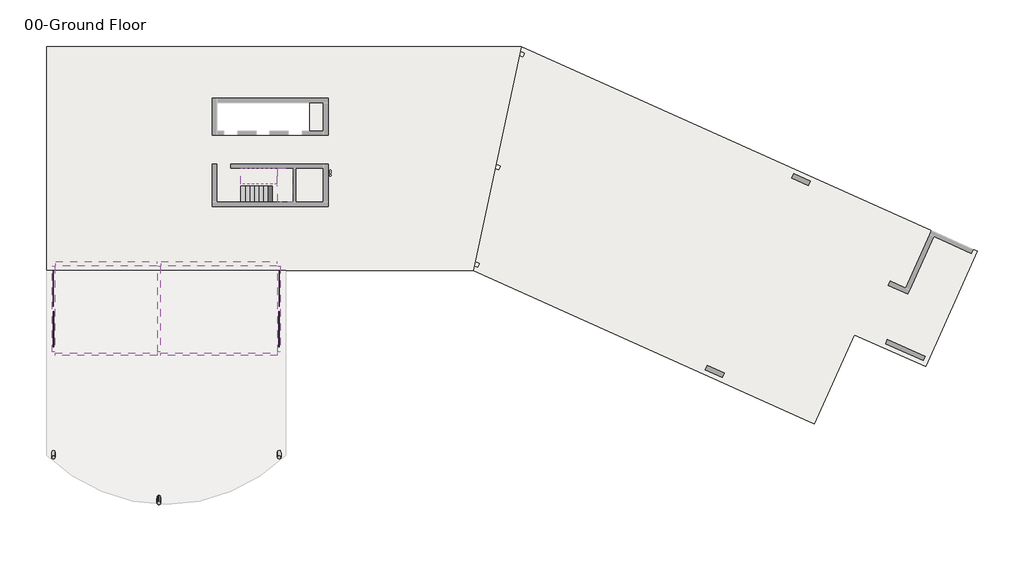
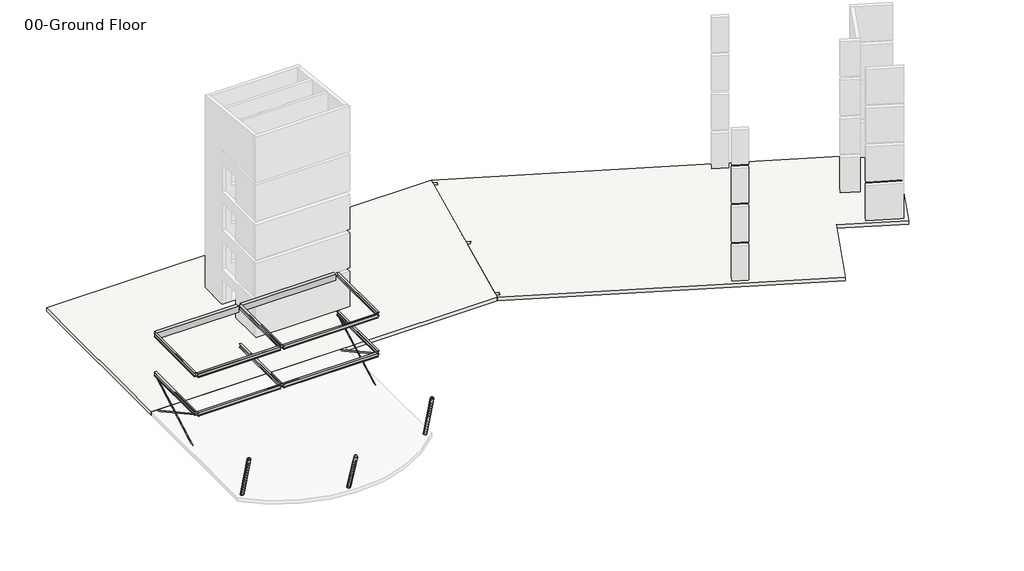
# One storey, part 2 of 2: 12 beams, 4 members, 3 columns, 3 slabs, 2 stair flights.
"""IFC4 building model written with IfcOpenShell, lengths in millimetres."""

from ifc_helpers import new_model, si_unit, frame, origin, place, context, project, spatial, polyline, circle_curve, ellipse_curve, outline, extrude, faceted_brep, transform, mapped, element, save
from ifc_brep_helpers import plane_surface, cylinder_surface, revolved_surface, advanced_brep
from components import w_shapes_w12x26_597c9bcb, w_shapes_w12x26_85c0d87e, w_shapes_w12x26_268029d0, w_shapes_w12x26_8135fd55, flat_bars_fl_3_8x4_f1b121f7, flat_bars_fl_3_8x4_35c656aa, flat_bars_fl_3_8x4_188fb4ee, flat_bars_fl_3_8x4_168c0369

model = new_model("IFC4")

# Units and contexts
model_context = context("Model", 3, world=origin())
ifc_project = project(units=[si_unit("LENGTHUNIT", "METRE", prefix="MILLI")], contexts=[model_context])

# Site, building, storey
site = spatial("IfcSite", under=ifc_project)
building = spatial("IfcBuilding", under=site)
storey = spatial("IfcBuildingStorey", under=building, Name="00-Ground Floor", Elevation=0.0)

# Beams
placement = place(None, origin())
element("IfcBeam", 1, ObjectType="Concrete-Rectangular Beam : 12 x 24", at=placement, inside=storey, context=model_context, shape_type="SweptSolid", body=[
    extrude(outline(polyline([(152.4, -14147.8), (152.4, -13843.0), (6858.0, -13843.0), (6858.0, -14147.8), (152.4, -14147.8)])), frame((0.0, 0.0, 5892.8), z_axis=(0.0, 0.0, 1.0), x_axis=(1.0, 0.0, 0.0)), (0.0, 0.0, 1.0), 508.0),
])
element("IfcBeam", 2, ObjectType="Concrete-Rectangular Beam : 12 x 24", at=placement, inside=storey, context=model_context, shape_type="SweptSolid", body=[
    extrude(outline(polyline([(14846.3, -13843.0), (14846.3, -14147.8), (7162.8, -14147.8), (7162.8, -13843.0), (14846.3, -13843.0)])), frame((0.0, 0.0, 5892.8), z_axis=(0.0, 0.0, 1.0), x_axis=(1.0, 0.0, 0.0)), (0.0, 0.0, 1.0), 508.0),
])
w_shapes_w12x26_shape = w_shapes_w12x26_597c9bcb(model_context)
element("IfcBeam", 3, ObjectType="W Shapes : W12X26", at=placement, inside=storey, context=model_context, shape_type="MappedRepresentation", body=[
    mapped(w_shapes_w12x26_shape, transform((14998.7, -16998.95, 2994.66), x_axis=(0.0, -1.0, 0.0), y_axis=(1.0, 0.0, 0.0), z_axis=(0.0, 0.0, 1.0))),
])
element("IfcBeam", 4, ObjectType="W Shapes : W12X26", at=placement, inside=storey, context=model_context, shape_type="MappedRepresentation", body=[
    mapped(w_shapes_w12x26_shape, transform((14998.7, -16998.95, 6347.46), x_axis=(0.0, -1.0, 0.0), y_axis=(1.0, 0.0, 0.0), z_axis=(0.0, 0.0, 1.0))),
])
w_shapes_w12x26_2_shape = w_shapes_w12x26_85c0d87e(model_context)
element("IfcBeam", 5, ObjectType="W Shapes : W12X26", at=placement, inside=storey, context=model_context, shape_type="MappedRepresentation", body=[
    mapped(w_shapes_w12x26_2_shape, transform((11004.55, -20002.5, 2994.66), x_axis=(-1.0, 0.0, 0.0), y_axis=(0.0, -1.0, 0.0), z_axis=(0.0, 0.0, 1.0))),
])
element("IfcBeam", 6, ObjectType="W Shapes : W12X26", at=placement, inside=storey, context=model_context, shape_type="MappedRepresentation", body=[
    mapped(w_shapes_w12x26_2_shape, transform((11004.55, -20002.5, 6347.46), x_axis=(-1.0, 0.0, 0.0), y_axis=(0.0, -1.0, 0.0), z_axis=(0.0, 0.0, 1.0))),
])
w_shapes_w12x26_3_shape = w_shapes_w12x26_268029d0(model_context)
element("IfcBeam", 7, ObjectType="W Shapes : W12X26", at=placement, inside=storey, context=model_context, shape_type="MappedRepresentation", body=[
    mapped(w_shapes_w12x26_3_shape, transform((7010.4, -16998.95, 2994.66), x_axis=(0.0, 1.0, 0.0), y_axis=(-1.0, 0.0, 0.0), z_axis=(0.0, 0.0, 1.0))),
])
element("IfcBeam", 8, ObjectType="W Shapes : W12X26", at=placement, inside=storey, context=model_context, shape_type="MappedRepresentation", body=[
    mapped(w_shapes_w12x26_3_shape, transform((0.0, -16998.95, 2994.66), x_axis=(0.0, 1.0, 0.0), y_axis=(-1.0, 0.0, 0.0), z_axis=(0.0, 0.0, 1.0))),
])
element("IfcBeam", 9, ObjectType="W Shapes : W12X26", at=placement, inside=storey, context=model_context, shape_type="MappedRepresentation", body=[
    mapped(w_shapes_w12x26_3_shape, transform((7010.4, -16998.95, 6347.46), x_axis=(0.0, 1.0, 0.0), y_axis=(-1.0, 0.0, 0.0), z_axis=(0.0, 0.0, 1.0))),
])
element("IfcBeam", 10, ObjectType="W Shapes : W12X26", at=placement, inside=storey, context=model_context, shape_type="MappedRepresentation", body=[
    mapped(w_shapes_w12x26_3_shape, transform((0.0, -16998.95, 6347.46), x_axis=(0.0, 1.0, 0.0), y_axis=(-1.0, 0.0, 0.0), z_axis=(0.0, 0.0, 1.0))),
])
w_shapes_w12x26_4_shape = w_shapes_w12x26_8135fd55(model_context)
element("IfcBeam", 11, ObjectType="W Shapes : W12X26", at=placement, inside=storey, context=model_context, shape_type="MappedRepresentation", body=[
    mapped(w_shapes_w12x26_4_shape, transform((3505.2, -20002.5, 2994.66), x_axis=(-1.0, 0.0, 0.0), y_axis=(0.0, -1.0, 0.0), z_axis=(0.0, 0.0, 1.0))),
])
element("IfcBeam", 12, ObjectType="W Shapes : W12X26", at=placement, inside=storey, context=model_context, shape_type="MappedRepresentation", body=[
    mapped(w_shapes_w12x26_4_shape, transform((3505.2, -20002.5, 6347.46), x_axis=(-1.0, 0.0, 0.0), y_axis=(0.0, -1.0, 0.0), z_axis=(0.0, 0.0, 1.0))),
])

# Columns
element("IfcColumn", 13, ObjectType="HSS Round-Column : HSS10X.500", at=placement, inside=storey, context=model_context, shape_type="AdvancedBrep", body=[
    advanced_brep(
    [(6883.4, -29416.3085227, -359.2102448), (7137.4, -29416.3085227, -359.2102448), (6896.1, -29416.3085227, -359.2102448), (7124.7, -29416.3085227, -359.2102448), (6883.4, -30549.160265, 3300.5302448), (7137.4, -30549.160265, 3300.5302448), (6896.1, -30549.160265, 3300.5302448), (7124.7, -30549.160265, 3300.5302448)],
    [
        (0, 1, circle_curve(frame((7010.4, -29416.3085227, -359.2102448), z_axis=(0.0, 0.29570157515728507, -0.9552803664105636), x_axis=(1.0, 0.0, 0.0)), 127.0)),
        (1, 0, circle_curve(frame((7010.4, -29416.3085227, -359.2102448), z_axis=(0.0, 0.29570157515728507, -0.9552803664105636), x_axis=(1.0, 0.0, 0.0)), 127.0)),
        (2, 3, circle_curve(frame((7010.4, -29416.3085227, -359.2102448), z_axis=(0.0, -0.29570157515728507, 0.9552803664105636), x_axis=(1.0, 0.0, 0.0)), 114.3)),
        (3, 2, circle_curve(frame((7010.4, -29416.3085227, -359.2102448), z_axis=(0.0, -0.29570157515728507, 0.9552803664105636), x_axis=(1.0, 0.0, 0.0)), 114.3)),
        (4, 5, circle_curve(frame((7010.4, -30549.160265, 3300.5302448), z_axis=(0.0, 0.29570157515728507, -0.9552803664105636), x_axis=(1.0, 0.0, 0.0)), 127.0)),
        (5, 1),
        (0, 4),
        (5, 4, circle_curve(frame((7010.4, -30549.160265, 3300.5302448), z_axis=(0.0, 0.29570157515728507, -0.9552803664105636), x_axis=(1.0, 0.0, 0.0)), 127.0)),
        (6, 7, circle_curve(frame((7010.4, -30549.160265, 3300.5302448), z_axis=(0.0, -0.29570157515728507, 0.9552803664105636), x_axis=(1.0, 0.0, 0.0)), 114.3)),
        (7, 3),
        (2, 6),
        (7, 6, circle_curve(frame((7010.4, -30549.160265, 3300.5302448), z_axis=(0.0, -0.29570157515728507, 0.9552803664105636), x_axis=(1.0, 0.0, 0.0)), 114.3)),
    ],
    [
        plane_surface(frame((7137.4, -29416.3085227, -359.2102448), z_axis=(0.0, 0.295701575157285, -0.9552803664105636), x_axis=(0.0, -0.9552803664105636, -0.295701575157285))),
        cylinder_surface(frame((7010.4, -29416.3085227, -359.2102448), z_axis=(0.0, -0.29570157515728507, 0.9552803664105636), x_axis=(1.0, 0.0, 0.0)), 127.0),
        revolved_surface(polyline([(7124.7, -29416.308522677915, -359.21024479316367), (7124.7, -30549.160264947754, 3300.530244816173)]), (7010.4, -29527.5, 0.0), (0.0, 0.29570157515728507, -0.9552803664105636)),
        plane_surface(frame((7137.4, -30549.160265, 3300.5302448), z_axis=(0.0, -0.295701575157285, 0.9552803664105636), x_axis=(0.0, 0.9552803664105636, 0.295701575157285))),
    ],
    [
        (0, [[1, 2], [3, 4]]),
        (1, [[5, 6, -1, 7]]),
        (1, [[8, -7, -2, -6]]),
        (2, [[9, 10, -3, 11]]),
        (2, [[12, -11, -4, -10]]),
        (3, [[-8, -5], [-12, -9]]),
    ],
),
    advanced_brep(
    [(6883.4, -30549.160265, 3300.5302448), (7137.4, -30549.160265, 3300.5302448), (6896.1, -30549.160265, 3300.5302448), (7124.7, -30549.160265, 3300.5302448), (7137.4, -29527.5, 0.0), (6883.4, -29527.5, 0.0), (7124.7, -29527.5, 0.0), (6896.1, -29527.5, 0.0)],
    [
        (0, 1, circle_curve(frame((7010.4, -30549.160265, 3300.5302448), z_axis=(0.0, -0.29570157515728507, 0.9552803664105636), x_axis=(1.0, 0.0, 0.0)), 127.0)),
        (1, 0, circle_curve(frame((7010.4, -30549.160265, 3300.5302448), z_axis=(0.0, -0.29570157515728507, 0.9552803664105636), x_axis=(1.0, 0.0, 0.0)), 127.0)),
        (2, 3, circle_curve(frame((7010.4, -30549.160265, 3300.5302448), z_axis=(0.0, 0.29570157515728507, -0.9552803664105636), x_axis=(1.0, 0.0, 0.0)), 114.3)),
        (3, 2, circle_curve(frame((7010.4, -30549.160265, 3300.5302448), z_axis=(0.0, 0.29570157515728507, -0.9552803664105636), x_axis=(1.0, 0.0, 0.0)), 114.3)),
        (1, 4),
        (4, 5, ellipse_curve(frame((7010.4, -29527.5, 0.0), z_axis=(0.0, 0.0, 1.0), x_axis=(0.0, -1.0, 0.0)), 132.9452635, 127.0)),
        (5, 0),
        (5, 4, ellipse_curve(frame((7010.4, -29527.5, 0.0), z_axis=(0.0, 0.0, 1.0), x_axis=(0.0, -1.0, 0.0)), 132.9452635, 127.0)),
        (3, 6),
        (6, 7, ellipse_curve(frame((7010.4, -29527.5, 0.0), z_axis=(0.0, 0.0, -1.0), x_axis=(0.0, 1.0, 0.0)), 119.6507371, 114.3)),
        (7, 2),
        (7, 6, ellipse_curve(frame((7010.4, -29527.5, 0.0), z_axis=(0.0, 0.0, -1.0), x_axis=(0.0, 1.0, 0.0)), 119.6507371, 114.3)),
    ],
    [
        plane_surface(frame((7137.4, -30549.160265, 3300.5302448), z_axis=(0.0, -0.295701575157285, 0.9552803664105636), x_axis=(0.0, 0.9552803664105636, 0.295701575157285))),
        cylinder_surface(frame((7010.4, -29416.3085227, -359.2102448), z_axis=(0.0, -0.29570157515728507, 0.9552803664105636), x_axis=(1.0, 0.0, 0.0)), 127.0),
        revolved_surface(polyline([(7124.7, -29517.037808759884, -33.798690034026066), (7124.7, -30549.160264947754, 3300.530244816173)]), (7010.4, -29527.5, 0.0), (0.0, 0.29570157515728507, -0.9552803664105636)),
        plane_surface(frame((7010.4, -29527.5, 0.0), z_axis=(0.0, 0.0, -1.0), x_axis=(1.0, 0.0, 0.0))),
    ],
    [
        (0, [[1, 2], [3, 4]]),
        (1, [[-2, 5, 6, 7]]),
        (1, [[-1, -7, 8, -5]]),
        (2, [[-4, 9, 10, 11]]),
        (2, [[-3, -11, 12, -9]]),
        (3, [[-6, -8], [-10, -12]]),
    ],
),
    advanced_brep(
    [(7137.4, -30437.9687876, 2941.32), (7137.4, -29527.5, 0.0), (6883.4, -29527.5, 0.0), (6883.4, -30437.9687876, 2941.32), (6896.1, -29527.5, 0.0), (7124.7, -29527.5, 0.0), (7124.7, -30437.9687876, 2941.32), (6896.1, -30437.9687876, 2941.32)],
    [
        (0, 1),
        (1, 2, ellipse_curve(frame((7010.4, -29527.5, 0.0), z_axis=(0.0, 0.0, 1.0), x_axis=(0.0, -1.0, 0.0)), 132.9452635, 127.0)),
        (2, 3),
        (3, 0, ellipse_curve(frame((7010.4, -30437.9687876, 2941.32), z_axis=(0.0, 0.0, -1.0), x_axis=(0.0, -1.0, 0.0)), 132.9452635, 127.0)),
        (2, 1, ellipse_curve(frame((7010.4, -29527.5, 0.0), z_axis=(0.0, 0.0, 1.0), x_axis=(0.0, -1.0, 0.0)), 132.9452635, 127.0)),
        (0, 3, ellipse_curve(frame((7010.4, -30437.9687876, 2941.32), z_axis=(0.0, 0.0, -1.0), x_axis=(0.0, -1.0, 0.0)), 132.9452635, 127.0)),
        (4, 5, ellipse_curve(frame((7010.4, -29527.5, 0.0), z_axis=(0.0, 0.0, 1.0), x_axis=(0.0, 1.0, 0.0)), 119.6507371, 114.3)),
        (5, 4, ellipse_curve(frame((7010.4, -29527.5, 0.0), z_axis=(0.0, 0.0, 1.0), x_axis=(0.0, 1.0, 0.0)), 119.6507371, 114.3)),
        (6, 5),
        (4, 7),
        (7, 6, ellipse_curve(frame((7010.4, -30437.9687876, 2941.32), z_axis=(0.0, 0.0, 1.0), x_axis=(0.0, 1.0, 0.0)), 119.6507371, 114.3)),
        (6, 7, ellipse_curve(frame((7010.4, -30437.9687876, 2941.32), z_axis=(0.0, 0.0, 1.0), x_axis=(0.0, 1.0, 0.0)), 119.6507371, 114.3)),
    ],
    [
        cylinder_surface(frame((7010.4, -29416.3085227, -359.2102448), z_axis=(0.0, -0.29570157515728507, 0.9552803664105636), x_axis=(1.0, 0.0, 0.0)), 127.0),
        plane_surface(frame((7010.4, -29527.5, 0.0), z_axis=(0.0, 0.0, -1.0), x_axis=(1.0, 0.0, 0.0))),
        revolved_surface(polyline([(7124.7, -29517.037808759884, -33.798690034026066), (7124.7, -30448.43097885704, 2975.1186900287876)]), (7010.4, -29527.5, 0.0), (0.0, 0.29570157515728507, -0.9552803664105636)),
        plane_surface(frame((7010.4, -30441.9, 2941.32), z_axis=(0.0, 0.0, 1.0), x_axis=(-1.0, 0.0, 0.0))),
    ],
    [
        (0, [[1, 2, 3, 4]]),
        (0, [[-3, 5, -1, 6]]),
        (1, [[-2, -5], [7, 8]]),
        (2, [[9, -7, 10, 11]]),
        (2, [[-10, -8, -9, 12]]),
        (3, [[-4, -6], [-11, -12]]),
    ],
),
])
element("IfcColumn", 14, ObjectType="HSS Round-Column : HSS10X.500", at=placement, inside=storey, context=model_context, shape_type="AdvancedBrep", body=[
    advanced_brep(
    [(-127.0, -26432.3335696, -359.2102448), (127.0, -26432.3335696, -359.2102448), (-114.3, -26432.3335696, -359.2102448), (114.3, -26432.3335696, -359.2102448), (-127.0, -27542.6664304, 3712.0102448), (127.0, -27542.6664304, 3712.0102448), (-114.3, -27542.6664304, 3712.0102448), (114.3, -27542.6664304, 3712.0102448)],
    [
        (0, 1, circle_curve(frame((0.0, -26432.3335696, -359.2102448), z_axis=(0.0, 0.26311740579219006, -0.9647638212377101), x_axis=(1.0000000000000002, 0.0, 0.0)), 127.0)),
        (1, 0, circle_curve(frame((0.0, -26432.3335696, -359.2102448), z_axis=(0.0, 0.26311740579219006, -0.9647638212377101), x_axis=(1.0000000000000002, 0.0, 0.0)), 127.0)),
        (2, 3, circle_curve(frame((0.0, -26432.3335696, -359.2102448), z_axis=(0.0, -0.26311740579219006, 0.9647638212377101), x_axis=(1.0000000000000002, 0.0, 0.0)), 114.3)),
        (3, 2, circle_curve(frame((0.0, -26432.3335696, -359.2102448), z_axis=(0.0, -0.26311740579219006, 0.9647638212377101), x_axis=(1.0000000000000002, 0.0, 0.0)), 114.3)),
        (4, 5, circle_curve(frame((0.0, -27542.6664304, 3712.0102448), z_axis=(0.0, 0.26311740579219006, -0.9647638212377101), x_axis=(1.0000000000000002, 0.0, 0.0)), 127.0)),
        (5, 1),
        (0, 4),
        (5, 4, circle_curve(frame((0.0, -27542.6664304, 3712.0102448), z_axis=(0.0, 0.26311740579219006, -0.9647638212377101), x_axis=(1.0000000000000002, 0.0, 0.0)), 127.0)),
        (6, 7, circle_curve(frame((0.0, -27542.6664304, 3712.0102448), z_axis=(0.0, -0.26311740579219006, 0.9647638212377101), x_axis=(1.0000000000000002, 0.0, 0.0)), 114.3)),
        (7, 3),
        (2, 6),
        (7, 6, circle_curve(frame((0.0, -27542.6664304, 3712.0102448), z_axis=(0.0, -0.26311740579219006, 0.9647638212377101), x_axis=(1.0000000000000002, 0.0, 0.0)), 114.3)),
    ],
    [
        plane_surface(frame((127.0, -26432.3335696, -359.2102448), z_axis=(0.0, 0.26311740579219, -0.96476382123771), x_axis=(0.0, -0.96476382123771, -0.26311740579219))),
        cylinder_surface(frame((0.0, -26432.3335696, -359.2102448), z_axis=(0.0, -0.26311740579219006, 0.9647638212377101), x_axis=(1.0000000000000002, 0.0, 0.0)), 127.0),
        revolved_surface(polyline([(114.30000000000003, -26432.33356959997, -359.21024479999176), (114.30000000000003, -27542.666430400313, 3712.0102447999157)]), (0.0, -26530.3, 0.0), (0.0, 0.26311740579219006, -0.9647638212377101)),
        plane_surface(frame((127.0, -27542.6664304, 3712.0102448), z_axis=(0.0, -0.26311740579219, 0.96476382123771), x_axis=(0.0, 0.96476382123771, 0.26311740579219))),
    ],
    [
        (0, [[1, 2], [3, 4]]),
        (1, [[5, 6, -1, 7]]),
        (1, [[8, -7, -2, -6]]),
        (2, [[9, 10, -3, 11]]),
        (2, [[12, -11, -4, -10]]),
        (3, [[-8, -5], [-12, -9]]),
    ],
),
    advanced_brep(
    [(-127.0, -27542.6664304, 3712.0102448), (127.0, -27542.6664304, 3712.0102448), (-114.3, -27542.6664304, 3712.0102448), (114.3, -27542.6664304, 3712.0102448), (127.0, -26530.3, 0.0), (-127.0, -26530.3, 0.0), (114.3, -26530.3, 0.0), (-114.3, -26530.3, 0.0)],
    [
        (0, 1, circle_curve(frame((0.0, -27542.6664304, 3712.0102448), z_axis=(0.0, -0.26311740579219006, 0.9647638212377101), x_axis=(1.0000000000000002, 0.0, 0.0)), 127.0)),
        (1, 0, circle_curve(frame((0.0, -27542.6664304, 3712.0102448), z_axis=(0.0, -0.26311740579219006, 0.9647638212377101), x_axis=(1.0000000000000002, 0.0, 0.0)), 127.0)),
        (2, 3, circle_curve(frame((0.0, -27542.6664304, 3712.0102448), z_axis=(0.0, 0.26311740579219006, -0.9647638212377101), x_axis=(1.0000000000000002, 0.0, 0.0)), 114.3)),
        (3, 2, circle_curve(frame((0.0, -27542.6664304, 3712.0102448), z_axis=(0.0, 0.26311740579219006, -0.9647638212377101), x_axis=(1.0000000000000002, 0.0, 0.0)), 114.3)),
        (1, 4),
        (4, 5, ellipse_curve(frame((0.0, -26530.3, 0.0), z_axis=(0.0, 0.0, 1.0), x_axis=(0.0, -1.0, 0.0)), 131.6384354, 127.0)),
        (5, 0),
        (5, 4, ellipse_curve(frame((0.0, -26530.3, 0.0), z_axis=(0.0, 0.0, 1.0), x_axis=(0.0, -1.0, 0.0)), 131.6384354, 127.0)),
        (3, 6),
        (6, 7, ellipse_curve(frame((0.0, -26530.3, 0.0), z_axis=(0.0, 0.0, -1.0), x_axis=(0.0, 1.0, 0.0)), 118.4745919, 114.3)),
        (7, 2),
        (7, 6, ellipse_curve(frame((0.0, -26530.3, 0.0), z_axis=(0.0, 0.0, -1.0), x_axis=(0.0, 1.0, 0.0)), 118.4745919, 114.3)),
    ],
    [
        plane_surface(frame((127.0, -27542.6664304, 3712.0102448), z_axis=(0.0, -0.26311740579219, 0.96476382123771), x_axis=(0.0, 0.96476382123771, 0.26311740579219))),
        cylinder_surface(frame((0.0, -26432.3335696, -359.2102448), z_axis=(0.0, -0.26311740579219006, 0.9647638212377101), x_axis=(1.0000000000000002, 0.0, 0.0)), 127.0),
        revolved_surface(polyline([(114.30000000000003, -26522.097912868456, -30.074319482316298), (114.30000000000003, -27542.666430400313, 3712.0102447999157)]), (0.0, -26530.3, 0.0), (0.0, 0.26311740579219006, -0.9647638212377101)),
        plane_surface(frame((0.0, -26530.3, 0.0), z_axis=(0.0, 0.0, -1.0), x_axis=(1.0, 0.0, 0.0))),
    ],
    [
        (0, [[1, 2], [3, 4]]),
        (1, [[-2, 5, 6, 7]]),
        (1, [[-1, -7, 8, -5]]),
        (2, [[-4, 9, 10, 11]]),
        (2, [[-3, -11, 12, -9]]),
        (3, [[-6, -8], [-10, -12]]),
    ],
),
    advanced_brep(
    [(127.0, -27444.7, 3352.8), (127.0, -26530.3, 0.0), (-127.0, -26530.3, 0.0), (-127.0, -27444.7, 3352.8), (-114.3, -26530.3, 0.0), (114.3, -26530.3, 0.0), (114.3, -27444.7, 3352.8), (-114.3, -27444.7, 3352.8)],
    [
        (0, 1),
        (1, 2, ellipse_curve(frame((0.0, -26530.3, 0.0), z_axis=(0.0, 0.0, 1.0), x_axis=(0.0, -1.0, 0.0)), 131.6384354, 127.0)),
        (2, 3),
        (3, 0, ellipse_curve(frame((0.0, -27444.7, 3352.8), z_axis=(0.0, 0.0, -1.0), x_axis=(0.0, -1.0, 0.0)), 131.6384354, 127.0)),
        (2, 1, ellipse_curve(frame((0.0, -26530.3, 0.0), z_axis=(0.0, 0.0, 1.0), x_axis=(0.0, -1.0, 0.0)), 131.6384354, 127.0)),
        (0, 3, ellipse_curve(frame((0.0, -27444.7, 3352.8), z_axis=(0.0, 0.0, -1.0), x_axis=(0.0, -1.0, 0.0)), 131.6384354, 127.0)),
        (4, 5, ellipse_curve(frame((0.0, -26530.3, 0.0), z_axis=(0.0, 0.0, 1.0), x_axis=(0.0, 1.0, 0.0)), 118.4745919, 114.3)),
        (5, 4, ellipse_curve(frame((0.0, -26530.3, 0.0), z_axis=(0.0, 0.0, 1.0), x_axis=(0.0, 1.0, 0.0)), 118.4745919, 114.3)),
        (6, 5),
        (4, 7),
        (7, 6, ellipse_curve(frame((0.0, -27444.7, 3352.8), z_axis=(0.0, 0.0, 1.0), x_axis=(0.0, 1.0, 0.0)), 118.4745919, 114.3)),
        (6, 7, ellipse_curve(frame((0.0, -27444.7, 3352.8), z_axis=(0.0, 0.0, 1.0), x_axis=(0.0, 1.0, 0.0)), 118.4745919, 114.3)),
    ],
    [
        cylinder_surface(frame((0.0, -26432.3335696, -359.2102448), z_axis=(0.0, -0.26311740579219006, 0.9647638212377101), x_axis=(1.0000000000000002, 0.0, 0.0)), 127.0),
        plane_surface(frame((0.0, -26530.3, 0.0), z_axis=(0.0, 0.0, -1.0), x_axis=(1.0, 0.0, 0.0))),
        revolved_surface(polyline([(114.30000000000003, -26522.097912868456, -30.074319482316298), (114.30000000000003, -27452.902087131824, 3382.8743194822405)]), (0.0, -26530.3, 0.0), (0.0, 0.26311740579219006, -0.9647638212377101)),
        plane_surface(frame((0.0, -27444.7, 3352.8), z_axis=(0.0, 0.0, 1.0), x_axis=(-1.0, 0.0, 0.0))),
    ],
    [
        (0, [[1, 2, 3, 4]]),
        (0, [[-3, 5, -1, 6]]),
        (1, [[-2, -5], [7, 8]]),
        (2, [[9, -7, 10, 11]]),
        (2, [[-10, -8, -9, 12]]),
        (3, [[-4, -6], [-11, -12]]),
    ],
),
])
element("IfcColumn", 15, ObjectType="HSS Round-Column : HSS10X.500", at=placement, inside=storey, context=model_context, shape_type="AdvancedBrep", body=[
    advanced_brep(
    [(14871.7, -26432.3335696, -359.2102448), (15125.7, -26432.3335696, -359.2102448), (14884.4, -26432.3335696, -359.2102448), (15113.0, -26432.3335696, -359.2102448), (14871.7, -27542.6664304, 3712.0102448), (15125.7, -27542.6664304, 3712.0102448), (14884.4, -27542.6664304, 3712.0102448), (15113.0, -27542.6664304, 3712.0102448)],
    [
        (0, 1, circle_curve(frame((14998.7, -26432.3335696, -359.2102448), z_axis=(0.0, 0.26311740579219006, -0.9647638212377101), x_axis=(1.0000000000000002, 0.0, 0.0)), 127.0)),
        (1, 0, circle_curve(frame((14998.7, -26432.3335696, -359.2102448), z_axis=(0.0, 0.26311740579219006, -0.9647638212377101), x_axis=(1.0000000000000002, 0.0, 0.0)), 127.0)),
        (2, 3, circle_curve(frame((14998.7, -26432.3335696, -359.2102448), z_axis=(0.0, -0.26311740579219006, 0.9647638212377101), x_axis=(1.0000000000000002, 0.0, 0.0)), 114.3)),
        (3, 2, circle_curve(frame((14998.7, -26432.3335696, -359.2102448), z_axis=(0.0, -0.26311740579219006, 0.9647638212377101), x_axis=(1.0000000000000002, 0.0, 0.0)), 114.3)),
        (4, 5, circle_curve(frame((14998.7, -27542.6664304, 3712.0102448), z_axis=(0.0, 0.26311740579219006, -0.9647638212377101), x_axis=(1.0000000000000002, 0.0, 0.0)), 127.0)),
        (5, 1),
        (0, 4),
        (5, 4, circle_curve(frame((14998.7, -27542.6664304, 3712.0102448), z_axis=(0.0, 0.26311740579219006, -0.9647638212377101), x_axis=(1.0000000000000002, 0.0, 0.0)), 127.0)),
        (6, 7, circle_curve(frame((14998.7, -27542.6664304, 3712.0102448), z_axis=(0.0, -0.26311740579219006, 0.9647638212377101), x_axis=(1.0000000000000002, 0.0, 0.0)), 114.3)),
        (7, 3),
        (2, 6),
        (7, 6, circle_curve(frame((14998.7, -27542.6664304, 3712.0102448), z_axis=(0.0, -0.26311740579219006, 0.9647638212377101), x_axis=(1.0000000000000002, 0.0, 0.0)), 114.3)),
    ],
    [
        plane_surface(frame((15125.7, -26432.3335696, -359.2102448), z_axis=(0.0, 0.26311740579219, -0.96476382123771), x_axis=(0.0, -0.96476382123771, -0.26311740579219))),
        cylinder_surface(frame((14998.7, -26432.3335696, -359.2102448), z_axis=(0.0, -0.26311740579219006, 0.9647638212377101), x_axis=(1.0000000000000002, 0.0, 0.0)), 127.0),
        revolved_surface(polyline([(15113.0, -26432.33356959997, -359.21024479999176), (15113.0, -27542.666430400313, 3712.0102447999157)]), (14998.7, -26530.3, 0.0), (0.0, 0.26311740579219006, -0.9647638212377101)),
        plane_surface(frame((15125.7, -27542.6664304, 3712.0102448), z_axis=(0.0, -0.26311740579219, 0.96476382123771), x_axis=(0.0, 0.96476382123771, 0.26311740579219))),
    ],
    [
        (0, [[1, 2], [3, 4]]),
        (1, [[5, 6, -1, 7]]),
        (1, [[8, -7, -2, -6]]),
        (2, [[9, 10, -3, 11]]),
        (2, [[12, -11, -4, -10]]),
        (3, [[-8, -5], [-12, -9]]),
    ],
),
    advanced_brep(
    [(14871.7, -27542.6664304, 3712.0102448), (15125.7, -27542.6664304, 3712.0102448), (14884.4, -27542.6664304, 3712.0102448), (15113.0, -27542.6664304, 3712.0102448), (15125.7, -26530.3, 0.0), (14871.7, -26530.3, 0.0), (15113.0, -26530.3, 0.0), (14884.4, -26530.3, 0.0)],
    [
        (0, 1, circle_curve(frame((14998.7, -27542.6664304, 3712.0102448), z_axis=(0.0, -0.26311740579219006, 0.9647638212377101), x_axis=(1.0000000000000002, 0.0, 0.0)), 127.0)),
        (1, 0, circle_curve(frame((14998.7, -27542.6664304, 3712.0102448), z_axis=(0.0, -0.26311740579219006, 0.9647638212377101), x_axis=(1.0000000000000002, 0.0, 0.0)), 127.0)),
        (2, 3, circle_curve(frame((14998.7, -27542.6664304, 3712.0102448), z_axis=(0.0, 0.26311740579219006, -0.9647638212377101), x_axis=(1.0000000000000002, 0.0, 0.0)), 114.3)),
        (3, 2, circle_curve(frame((14998.7, -27542.6664304, 3712.0102448), z_axis=(0.0, 0.26311740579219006, -0.9647638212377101), x_axis=(1.0000000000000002, 0.0, 0.0)), 114.3)),
        (1, 4),
        (4, 5, ellipse_curve(frame((14998.7, -26530.3, 0.0), z_axis=(0.0, 0.0, 1.0), x_axis=(0.0, -1.0, 0.0)), 131.6384354, 127.0)),
        (5, 0),
        (5, 4, ellipse_curve(frame((14998.7, -26530.3, 0.0), z_axis=(0.0, 0.0, 1.0), x_axis=(0.0, -1.0, 0.0)), 131.6384354, 127.0)),
        (3, 6),
        (6, 7, ellipse_curve(frame((14998.7, -26530.3, 0.0), z_axis=(0.0, 0.0, -1.0), x_axis=(0.0, 1.0, 0.0)), 118.4745919, 114.3)),
        (7, 2),
        (7, 6, ellipse_curve(frame((14998.7, -26530.3, 0.0), z_axis=(0.0, 0.0, -1.0), x_axis=(0.0, 1.0, 0.0)), 118.4745919, 114.3)),
    ],
    [
        plane_surface(frame((15125.7, -27542.6664304, 3712.0102448), z_axis=(0.0, -0.26311740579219, 0.96476382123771), x_axis=(0.0, 0.96476382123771, 0.26311740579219))),
        cylinder_surface(frame((14998.7, -26432.3335696, -359.2102448), z_axis=(0.0, -0.26311740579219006, 0.9647638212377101), x_axis=(1.0000000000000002, 0.0, 0.0)), 127.0),
        revolved_surface(polyline([(15113.0, -26522.097912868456, -30.074319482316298), (15113.0, -27542.666430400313, 3712.0102447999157)]), (14998.7, -26530.3, 0.0), (0.0, 0.26311740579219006, -0.9647638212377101)),
        plane_surface(frame((14998.7, -26530.3, 0.0), z_axis=(0.0, 0.0, -1.0), x_axis=(1.0, 0.0, 0.0))),
    ],
    [
        (0, [[1, 2], [3, 4]]),
        (1, [[-2, 5, 6, 7]]),
        (1, [[-1, -7, 8, -5]]),
        (2, [[-4, 9, 10, 11]]),
        (2, [[-3, -11, 12, -9]]),
        (3, [[-6, -8], [-10, -12]]),
    ],
),
    advanced_brep(
    [(15125.7, -27444.7, 3352.8), (15125.7, -26530.3, 0.0), (14871.7, -26530.3, 0.0), (14871.7, -27444.7, 3352.8), (14884.4, -26530.3, 0.0), (15113.0, -26530.3, 0.0), (15113.0, -27444.7, 3352.8), (14884.4, -27444.7, 3352.8)],
    [
        (0, 1),
        (1, 2, ellipse_curve(frame((14998.7, -26530.3, 0.0), z_axis=(0.0, 0.0, 1.0), x_axis=(0.0, -1.0, 0.0)), 131.6384354, 127.0)),
        (2, 3),
        (3, 0, ellipse_curve(frame((14998.7, -27444.7, 3352.8), z_axis=(0.0, 0.0, -1.0), x_axis=(0.0, -1.0, 0.0)), 131.6384354, 127.0)),
        (2, 1, ellipse_curve(frame((14998.7, -26530.3, 0.0), z_axis=(0.0, 0.0, 1.0), x_axis=(0.0, -1.0, 0.0)), 131.6384354, 127.0)),
        (0, 3, ellipse_curve(frame((14998.7, -27444.7, 3352.8), z_axis=(0.0, 0.0, -1.0), x_axis=(0.0, -1.0, 0.0)), 131.6384354, 127.0)),
        (4, 5, ellipse_curve(frame((14998.7, -26530.3, 0.0), z_axis=(0.0, 0.0, 1.0), x_axis=(0.0, 1.0, 0.0)), 118.4745919, 114.3)),
        (5, 4, ellipse_curve(frame((14998.7, -26530.3, 0.0), z_axis=(0.0, 0.0, 1.0), x_axis=(0.0, 1.0, 0.0)), 118.4745919, 114.3)),
        (6, 5),
        (4, 7),
        (7, 6, ellipse_curve(frame((14998.7, -27444.7, 3352.8), z_axis=(0.0, 0.0, 1.0), x_axis=(0.0, 1.0, 0.0)), 118.4745919, 114.3)),
        (6, 7, ellipse_curve(frame((14998.7, -27444.7, 3352.8), z_axis=(0.0, 0.0, 1.0), x_axis=(0.0, 1.0, 0.0)), 118.4745919, 114.3)),
    ],
    [
        cylinder_surface(frame((14998.7, -26432.3335696, -359.2102448), z_axis=(0.0, -0.26311740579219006, 0.9647638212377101), x_axis=(1.0000000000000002, 0.0, 0.0)), 127.0),
        plane_surface(frame((14998.7, -26530.3, 0.0), z_axis=(0.0, 0.0, -1.0), x_axis=(1.0, 0.0, 0.0))),
        revolved_surface(polyline([(15113.0, -26522.097912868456, -30.074319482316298), (15113.0, -27452.902087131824, 3382.8743194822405)]), (14998.7, -26530.3, 0.0), (0.0, 0.26311740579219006, -0.9647638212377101)),
        plane_surface(frame((14998.7, -27444.7, 3352.8), z_axis=(0.0, 0.0, 1.0), x_axis=(-1.0, 0.0, 0.0))),
    ],
    [
        (0, [[1, 2, 3, 4]]),
        (0, [[-3, 5, -1, 6]]),
        (1, [[-2, -5], [7, 8]]),
        (2, [[9, -7, 10, 11]]),
        (2, [[-10, -8, -9, 12]]),
        (3, [[-4, -6], [-11, -12]]),
    ],
),
])

# Members
flat_bars_fl_3_8x4_shape = flat_bars_fl_3_8x4_f1b121f7(model_context)
element("IfcMember", 16, ObjectType="Flat Bars : FL 3/8X4", at=placement, inside=storey, context=model_context, shape_type="MappedRepresentation", body=[
    mapped(flat_bars_fl_3_8x4_shape, transform((14998.7, -16998.95, 1344.93), x_axis=(0.0, -0.8764896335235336, 0.48142073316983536), y_axis=(1.0, 0.0, 0.0), z_axis=(0.0, 0.48142073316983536, 0.8764896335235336))),
])
flat_bars_fl_3_8x4_2_shape = flat_bars_fl_3_8x4_35c656aa(model_context)
element("IfcMember", 17, ObjectType="Flat Bars : FL 3/8X4", at=placement, inside=storey, context=model_context, shape_type="MappedRepresentation", body=[
    mapped(flat_bars_fl_3_8x4_2_shape, transform((14989.175, -16998.95, 1344.93), x_axis=(0.0, 0.8764896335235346, 0.4814207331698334), y_axis=(-1.0, 0.0, 0.0), z_axis=(0.0, -0.4814207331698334, 0.8764896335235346))),
])
flat_bars_fl_3_8x4_3_shape = flat_bars_fl_3_8x4_188fb4ee(model_context)
element("IfcMember", 18, ObjectType="Flat Bars : FL 3/8X4", at=placement, inside=storey, context=model_context, shape_type="MappedRepresentation", body=[
    mapped(flat_bars_fl_3_8x4_3_shape, transform((9.525, -16998.95, 1344.93), x_axis=(0.0, 0.8764896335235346, 0.4814207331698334), y_axis=(-1.0, 0.0, 0.0), z_axis=(0.0, -0.4814207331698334, 0.8764896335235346))),
])
flat_bars_fl_3_8x4_4_shape = flat_bars_fl_3_8x4_168c0369(model_context)
element("IfcMember", 19, ObjectType="Flat Bars : FL 3/8X4", at=placement, inside=storey, context=model_context, shape_type="MappedRepresentation", body=[
    mapped(flat_bars_fl_3_8x4_4_shape, transform((0.0, -16998.95, 1344.93), x_axis=(0.0, -0.8764896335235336, 0.48142073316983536), y_axis=(1.0, 0.0, 0.0), z_axis=(0.0, 0.48142073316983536, 0.8764896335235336))),
])

# Slabs
element("IfcSlab", 20, ObjectType="7\" Thickness", at=placement, inside=storey, context=model_context, shape_type="Brep", body=[
    faceted_brep([(14884.4, -8826.5, 1775.0117647), (14903.45, -8826.5, 1775.0117647), (14903.45, -9893.3, 1775.0117647), (15167.2458186, -9893.3, 1775.0117647), (15951.2, -9893.3, 1775.0117647), (15951.2, -7633.3081651, 1775.0117647), (14906.3541814, -7633.3081651, 1775.0117647), (14884.4, -7633.3081651, 1775.0117647), (14865.35, -7633.3081651, 1775.0117647), (14865.35, -8700.1081651, 1775.0117647), (14884.4, -8700.1081651, 1775.0117647), (14884.4, -8826.5, 1597.2117647), (14903.45, -8826.5, 1597.2117647), (14903.45, -8826.5, 1577.7882353), (14903.45, -8826.5, 1426.5203527), (14903.45, -9893.3, 1426.5203527), (14903.45, -9893.3, 1577.7882353), (15167.2458186, -9893.3, 1597.2117647), (15951.2, -9893.3, 1597.2117647), (15951.2, -7633.3081651, 1597.2117647), (14906.3541814, -7633.3081651, 1597.2117647), (14884.4, -7633.3081651, 1611.4174115), (14865.35, -7633.3081651, 1623.7438821), (14865.35, -8700.1081651, 1623.7438821), (14884.4, -8700.1081651, 1611.4174115), (14884.4, -8700.1081651, 1597.2117647), (14906.3541814, -8700.1081651, 1597.2117647), (15167.2458186, -8826.5, 1597.2117647)], [[[0, 1, 2, 3, 4, 5, 6, 7, 8, 9, 10]], [[1, 0, 11, 12]], [[2, 1, 12, 13, 14, 15, 16]], [[2, 16, 15, 17, 18, 4, 3]], [[5, 4, 18, 19]], [[5, 19, 20, 21, 7, 6]], [[8, 7, 21, 22]], [[9, 8, 22, 23]], [[10, 9, 23, 24]], [[0, 10, 24, 25, 11]], [[25, 26, 20, 19, 18, 17, 27, 12, 11]], [[26, 25, 24]], [[27, 17, 15, 14]], [[12, 27, 14, 13]], [[20, 26, 24, 23, 22, 21]]]),
])
element("IfcSlab", 21, ObjectType="RC Slab 12\"", at=placement, inside=storey, context=model_context, shape_type="AdvancedBrep", body=[
    advanced_brep(
    [(-457.2, 457.2, -304.8), (31098.7387393, 457.2, -304.8), (27903.7815965, -14452.6, -304.8), (15455.9, -14452.6, -304.8), (-457.2, -14452.6, -304.8), (17005.3, -2984.5, -304.8), (10553.7, -2984.5, -304.8), (10553.7, -5422.9, -304.8), (17005.3, -5422.9, -304.8), (17005.3, -5168.9, -304.8), (17005.3, -3289.3, -304.8), (18347.8020543, -8109.4381113, -304.8), (18449.4020543, -8109.4381113, -304.8), (18347.8020543, -7957.0381113, -304.8), (18449.4020543, -7957.0381113, -304.8), (18347.8020543, -7804.6381113, -304.8), (18449.4020543, -7804.6381113, -304.8), (31098.7387393, 457.2, 0.0), (-457.2, 457.2, 0.0), (-457.2, -14452.6, 0.0), (15455.9, -14452.6, 0.0), (27903.7815965, -14452.6, 0.0), (10553.7, -2984.5, 0.0), (10858.5, -2984.5, 0.0), (17005.3, -2984.5, 0.0), (17005.3, -3289.3, 0.0), (17005.3, -5168.9, 0.0), (17005.3, -5422.9, 0.0), (10553.7, -5422.9, 0.0), (10553.7, -5168.9, 0.0), (18449.4020543, -8109.4381113, 0.0), (18347.8020543, -8109.4381113, 0.0), (18449.4020543, -7957.0381113, 0.0), (18347.8020543, -7957.0381113, 0.0), (18449.4020543, -7804.6381113, 0.0), (18347.8020543, -7804.6381113, 0.0)],
    [
        (0, 1),
        (1, 2),
        (2, 3),
        (3, 4),
        (4, 0),
        (5, 6),
        (6, 7),
        (7, 8),
        (8, 9),
        (9, 10),
        (10, 5),
        (11, 12, circle_curve(frame((18398.6020543, -8109.4381113, -304.8), z_axis=(0.0, 0.0, 1.0), x_axis=(1.0, 0.0, 0.0)), 50.8)),
        (12, 11, circle_curve(frame((18398.6020543, -8109.4381113, -304.8), z_axis=(0.0, 0.0, 1.0), x_axis=(1.0, 0.0, 0.0)), 50.8)),
        (13, 14, circle_curve(frame((18398.6020543, -7957.0381113, -304.8), z_axis=(0.0, 0.0, 1.0), x_axis=(1.0, 0.0, 0.0)), 50.8)),
        (14, 13, circle_curve(frame((18398.6020543, -7957.0381113, -304.8), z_axis=(0.0, 0.0, 1.0), x_axis=(1.0, 0.0, 0.0)), 50.8)),
        (15, 16, circle_curve(frame((18398.6020543, -7804.6381113, -304.8), z_axis=(0.0, 0.0, 1.0), x_axis=(1.0, 0.0, 0.0)), 50.8)),
        (16, 15, circle_curve(frame((18398.6020543, -7804.6381113, -304.8), z_axis=(0.0, 0.0, 1.0), x_axis=(1.0, 0.0, 0.0)), 50.8)),
        (17, 18),
        (18, 19),
        (19, 20),
        (20, 21),
        (21, 17),
        (22, 23),
        (23, 24),
        (24, 25),
        (25, 26),
        (26, 27),
        (27, 28),
        (28, 29),
        (29, 22),
        (30, 31, circle_curve(frame((18398.6020543, -8109.4381113, 0.0), z_axis=(0.0, 0.0, -1.0), x_axis=(1.0, 0.0, 0.0)), 50.8)),
        (31, 30, circle_curve(frame((18398.6020543, -8109.4381113, 0.0), z_axis=(0.0, 0.0, -1.0), x_axis=(1.0, 0.0, 0.0)), 50.8)),
        (32, 33, circle_curve(frame((18398.6020543, -7957.0381113, 0.0), z_axis=(0.0, 0.0, -1.0), x_axis=(1.0, 0.0, 0.0)), 50.8)),
        (33, 32, circle_curve(frame((18398.6020543, -7957.0381113, 0.0), z_axis=(0.0, 0.0, -1.0), x_axis=(1.0, 0.0, 0.0)), 50.8)),
        (34, 35, circle_curve(frame((18398.6020543, -7804.6381113, 0.0), z_axis=(0.0, 0.0, -1.0), x_axis=(1.0, 0.0, 0.0)), 50.8)),
        (35, 34, circle_curve(frame((18398.6020543, -7804.6381113, 0.0), z_axis=(0.0, 0.0, -1.0), x_axis=(1.0, 0.0, 0.0)), 50.8)),
        (0, 18),
        (17, 1),
        (21, 2),
        (19, 4),
        (5, 24),
        (22, 6),
        (28, 7),
        (27, 8),
        (11, 31),
        (30, 12),
        (13, 33),
        (32, 14),
        (15, 35),
        (34, 16),
    ],
    [
        plane_surface(frame((0.0, 457.2, -304.8), z_axis=(0.0, 0.0, -1.0), x_axis=(1.0, 0.0, 0.0))),
        plane_surface(frame((0.0, 457.2, 0.0), z_axis=(0.0, 0.0, 1.0), x_axis=(-1.0, 0.0, 0.0))),
        plane_surface(frame((-457.2, 457.2, -304.8), z_axis=(0.0, 1.0, 0.0), x_axis=(0.0, 0.0, 1.0))),
        plane_surface(frame((31098.7387393, 457.2, -304.8), z_axis=(0.9778024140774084, -0.2095290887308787, 0.0), x_axis=(0.0, 0.0, 1.0))),
        plane_surface(frame((27903.7815965, -14452.6, -304.8), z_axis=(0.0, -1.0, 0.0), x_axis=(0.0, 0.0, 1.0))),
        plane_surface(frame((-457.2, -14452.6, -304.8), z_axis=(-1.0, 0.0, 0.0), x_axis=(0.0, 0.0, 1.0))),
        plane_surface(frame((17005.3, -2984.5, 13411.2), z_axis=(0.0, -1.0, 0.0), x_axis=(0.0, 0.0, -1.0))),
        plane_surface(frame((10553.7, -2984.5, 13411.2), z_axis=(1.0, 0.0, 0.0), x_axis=(0.0, 0.0, -1.0))),
        plane_surface(frame((10553.7, -5422.9, 13411.2), z_axis=(0.0, 1.0, 0.0), x_axis=(0.0, 0.0, -1.0))),
        plane_surface(frame((17005.3, -5422.9, 13411.2), z_axis=(-1.0, 0.0, 0.0), x_axis=(0.0, 0.0, -1.0))),
        revolved_surface(polyline([(18449.4020543, -8109.4381113, 0.0), (18449.4020543, -8109.4381113, -304.8)]), (18398.6020543, -8109.4381113, -609.6), (0.0, 0.0, 1.0)),
        revolved_surface(polyline([(18449.4020543, -7957.0381113, 0.0), (18449.4020543, -7957.0381113, -304.8)]), (18398.6020543, -7957.0381113, -609.6), (0.0, 0.0, 1.0)),
        revolved_surface(polyline([(18449.4020543, -7804.6381113, 0.0), (18449.4020543, -7804.6381113, -304.8)]), (18398.6020543, -7804.6381113, -609.6), (0.0, 0.0, 1.0)),
    ],
    [
        (0, [[1, 2, 3, 4, 5], [6, 7, 8, 9, 10, 11], [12, 13], [14, 15], [16, 17]]),
        (1, [[18, 19, 20, 21, 22], [23, 24, 25, 26, 27, 28, 29, 30], [31, 32], [33, 34], [35, 36]]),
        (2, [[-1, 37, -18, 38]]),
        (3, [[-2, -38, -22, 39]]),
        (4, [[-4, -3, -39, -21, -20, 40]]),
        (5, [[-5, -40, -19, -37]]),
        (6, [[41, -24, -23, 42, -6]]),
        (7, [[-42, -30, -29, 43, -7]]),
        (8, [[-43, -28, 44, -8]]),
        (9, [[-41, -11, -10, -9, -44, -27, -26, -25]]),
        (10, [[45, -31, 46, -12]]),
        (10, [[-45, -13, -46, -32]]),
        (11, [[47, -33, 48, -14]]),
        (11, [[-47, -15, -48, -34]]),
        (12, [[49, -35, 50, -16]]),
        (12, [[-49, -17, -50, -36]]),
    ],
),
])
element("IfcSlab", 22, ObjectType="RC Slab 12\"", at=placement, inside=storey, context=model_context, shape_type="Brep", body=[
    faceted_brep([(61413.0546278, -13159.9258537, -304.8), (57962.8673107, -20840.7, -304.8), (53236.2370668, -18717.5078049, -304.8), (50577.0429205, -24637.3804878, -304.8), (27903.7815965, -14452.6, -304.8), (27969.0988162, -14147.786308, -304.8), (28217.3432689, -14259.3121951, -304.8), (28342.2369275, -13981.275122, -304.8), (28034.4045592, -13843.0124873, -304.8), (29359.7488162, -7658.086308, -304.8), (29607.9932689, -7769.6121951, -304.8), (29732.8869275, -7491.575122, -304.8), (29425.0545592, -7353.3124873, -304.8), (30968.1131019, -152.386308, -304.8), (31216.3575546, -263.9121951, -304.8), (31341.2512132, 14.124878, -304.8), (31033.4188449, 152.3875127, -304.8), (31098.7387393, 457.2, -304.8), (57962.8673107, -20840.7, 0.0), (61413.0546278, -13159.9258537, 0.0), (61135.0175546, -13035.0321951, 0.0), (58354.6468229, -11786.0956098, 0.0), (31098.7387393, 457.2, 0.0), (31033.4244536, 152.4, 0.0), (31341.2512132, 14.124878, 0.0), (31216.3575546, -263.9121951, 0.0), (30968.1131019, -152.386308, 0.0), (29425.0601679, -7353.3, 0.0), (29732.8869275, -7491.575122, 0.0), (29607.9932689, -7769.6121951, 0.0), (29359.7488162, -7658.086308, 0.0), (28034.4101679, -13843.0, 0.0), (28342.2369275, -13981.275122, 0.0), (28217.3432689, -14259.3121951, 0.0), (27969.0988162, -14147.786308, 0.0), (27903.7815965, -14452.6, 0.0), (50577.0429205, -24637.3804878, 0.0), (53236.2370668, -18717.5078049, 0.0)], [[[0, 1, 2, 3, 4, 5, 6, 7, 8, 9, 10, 11, 12, 13, 14, 15, 16, 17]], [[18, 19, 20, 21, 22, 23, 24, 25, 26, 27, 28, 29, 30, 31, 32, 33, 34, 35, 36, 37]], [[1, 0, 19, 18]], [[2, 1, 18, 37]], [[3, 2, 37, 36]], [[4, 3, 36, 35]], [[4, 35, 34, 5]], [[22, 17, 16, 23]], [[8, 31, 30, 9]], [[26, 13, 12, 27]], [[0, 17, 22, 21, 20, 19]], [[7, 32, 31, 8]], [[32, 7, 6, 33]], [[33, 6, 5, 34]], [[15, 24, 23, 16]], [[24, 15, 14, 25]], [[25, 14, 13, 26]], [[11, 28, 27, 12]], [[28, 11, 10, 29]], [[29, 10, 9, 30]]]),
])

# Stair flights
element("IfcStairFlight", 23, ObjectType="3/4\" Nosing", at=placement, inside=storey, context=model_context, shape_type="Brep", body=[
    faceted_brep([(12769.85, -8826.5, 197.2235294), (12465.05, -8826.5, 197.2235294), (12465.05, -9893.3, 197.2235294), (12769.85, -9893.3, 197.2235294), (12769.85, -8826.5, 45.9556468), (12698.8276368, -8826.5, 0.0), (12465.05, -8826.5, 0.0), (12465.05, -9893.3, 0.0), (12698.8276368, -9893.3, 0.0), (12769.85, -9893.3, 45.9556468), (13074.65, -8826.5, 394.4470588), (12769.85, -8826.5, 394.4470588), (12769.85, -9893.3, 394.4470588), (13074.65, -9893.3, 394.4470588), (13074.65, -8826.5, 243.1791762), (13074.65, -9893.3, 243.1791762), (13379.45, -8826.5, 591.6705882), (13074.65, -8826.5, 591.6705882), (13074.65, -9893.3, 591.6705882), (13379.45, -9893.3, 591.6705882), (13379.45, -8826.5, 440.4027056), (13379.45, -9893.3, 440.4027056), (13684.25, -8826.5, 788.8941176), (13379.45, -8826.5, 788.8941176), (13379.45, -9893.3, 788.8941176), (13684.25, -9893.3, 788.8941176), (13684.25, -8826.5, 637.626235), (13684.25, -9893.3, 637.626235), (13989.05, -8826.5, 986.1176471), (13684.25, -8826.5, 986.1176471), (13684.25, -9893.3, 986.1176471), (13989.05, -9893.3, 986.1176471), (13989.05, -8826.5, 834.8497644), (13989.05, -9893.3, 834.8497644), (14293.85, -8826.5, 1183.3411765), (13989.05, -8826.5, 1183.3411765), (13989.05, -9893.3, 1183.3411765), (14293.85, -9893.3, 1183.3411765), (14293.85, -8826.5, 1032.0732938), (14293.85, -9893.3, 1032.0732938), (14598.65, -8826.5, 1380.5647059), (14293.85, -8826.5, 1380.5647059), (14293.85, -9893.3, 1380.5647059), (14598.65, -9893.3, 1380.5647059), (14598.65, -8826.5, 1229.2968232), (14598.65, -9893.3, 1229.2968232), (14903.45, -8826.5, 1577.7882353), (14598.65, -8826.5, 1577.7882353), (14598.65, -9893.3, 1577.7882353), (14884.4, -9893.3, 1577.7882353), (14903.45, -9893.3, 1577.7882353), (14903.45, -8826.5, 1426.5203527), (14884.4, -9893.3, 1414.1938821), (14903.45, -9893.3, 1426.5203527)], [[[0, 1, 2, 3]], [[1, 0, 4, 5, 6]], [[2, 1, 6, 7]], [[3, 2, 7, 8, 9]], [[10, 11, 12, 13]], [[11, 10, 14, 4, 0]], [[0, 3, 12, 11]], [[13, 12, 3, 9, 15]], [[16, 17, 18, 19]], [[17, 16, 20, 14, 10]], [[10, 13, 18, 17]], [[19, 18, 13, 15, 21]], [[22, 23, 24, 25]], [[23, 22, 26, 20, 16]], [[16, 19, 24, 23]], [[25, 24, 19, 21, 27]], [[28, 29, 30, 31]], [[29, 28, 32, 26, 22]], [[22, 25, 30, 29]], [[31, 30, 25, 27, 33]], [[34, 35, 36, 37]], [[35, 34, 38, 32, 28]], [[28, 31, 36, 35]], [[37, 36, 31, 33, 39]], [[40, 41, 42, 43]], [[41, 40, 44, 38, 34]], [[34, 37, 42, 41]], [[43, 42, 37, 39, 45]], [[46, 47, 48, 49, 50]], [[47, 46, 51, 44, 40]], [[40, 43, 48, 47]], [[49, 48, 43, 45, 52]], [[46, 50, 53, 51]], [[7, 6, 5, 8]], [[8, 5, 4, 14, 20, 26, 32, 38, 44, 51, 53, 52, 45, 39, 33, 27, 21, 15, 9]], [[50, 49, 52, 53]]]),
])
element("IfcStairFlight", 24, ObjectType="3/4\" Nosing", at=placement, inside=storey, context=model_context, shape_type="Brep", body=[
    faceted_brep([(14560.55, -8700.1081651, 1972.2352941), (14865.35, -8700.1081651, 1972.2352941), (14865.35, -7633.3081651, 1972.2352941), (14560.55, -7633.3081651, 1972.2352941), (14560.55, -8700.1081651, 1820.9674115), (14865.35, -8700.1081651, 1623.7438821), (14865.35, -8700.1081651, 1775.0117647), (14865.35, -7633.3081651, 1623.7438821), (14865.35, -7633.3081651, 1775.0117647), (14560.55, -7633.3081651, 1820.9674115), (14255.75, -8700.1081651, 2169.4588235), (14560.55, -8700.1081651, 2169.4588235), (14560.55, -7633.3081651, 2169.4588235), (14255.75, -7633.3081651, 2169.4588235), (14255.75, -8700.1081651, 2018.1909409), (14255.75, -7633.3081651, 2018.1909409), (13950.95, -8700.1081651, 2366.6823529), (14255.75, -8700.1081651, 2366.6823529), (14255.75, -7633.3081651, 2366.6823529), (13950.95, -7633.3081651, 2366.6823529), (13950.95, -8700.1081651, 2215.4144703), (13950.95, -7633.3081651, 2215.4144703), (13646.15, -8700.1081651, 2563.9058824), (13950.95, -8700.1081651, 2563.9058824), (13950.95, -7633.3081651, 2563.9058824), (13646.15, -7633.3081651, 2563.9058824), (13646.15, -8700.1081651, 2412.6379997), (13646.15, -7633.3081651, 2412.6379997), (13341.35, -8700.1081651, 2761.1294118), (13646.15, -8700.1081651, 2761.1294118), (13646.15, -7633.3081651, 2761.1294118), (13341.35, -7633.3081651, 2761.1294118), (13341.35, -8700.1081651, 2609.8615291), (13341.35, -7633.3081651, 2609.8615291), (13036.55, -8700.1081651, 2958.3529412), (13341.35, -8700.1081651, 2958.3529412), (13341.35, -7633.3081651, 2958.3529412), (13036.55, -7633.3081651, 2958.3529412), (13036.55, -8700.1081651, 2807.0850585), (13036.55, -7633.3081651, 2807.0850585), (12731.75, -8700.1081651, 3004.3085879), (12446.0, -8700.1081651, 3189.2056468), (12446.0, -7633.3081651, 3189.2056468), (12731.75, -7633.3081651, 3004.3085879), (12446.0, -8700.1081651, 3352.8), (12731.75, -8700.1081651, 3352.8), (12731.75, -7633.3081651, 3352.8), (12446.0, -7633.3081651, 3352.8), (12731.75, -8700.1081651, 3155.5764706), (12731.75, -7633.3081651, 3155.5764706), (13036.55, -8700.1081651, 3155.5764706), (13036.55, -7633.3081651, 3155.5764706)], [[[0, 1, 2, 3]], [[1, 0, 4, 5, 6]], [[2, 1, 6, 5, 7, 8]], [[3, 2, 8, 7, 9]], [[10, 11, 12, 13]], [[11, 10, 14, 4, 0]], [[12, 11, 0, 3]], [[13, 12, 3, 9, 15]], [[16, 17, 18, 19]], [[17, 16, 20, 14, 10]], [[18, 17, 10, 13]], [[19, 18, 13, 15, 21]], [[22, 23, 24, 25]], [[23, 22, 26, 20, 16]], [[24, 23, 16, 19]], [[25, 24, 19, 21, 27]], [[28, 29, 30, 31]], [[29, 28, 32, 26, 22]], [[30, 29, 22, 25]], [[31, 30, 25, 27, 33]], [[34, 35, 36, 37]], [[35, 34, 38, 32, 28]], [[36, 35, 28, 31]], [[37, 36, 31, 33, 39]], [[5, 4, 14, 20, 26, 32, 38, 40, 41, 42, 43, 39, 33, 27, 21, 15, 9, 7]], [[44, 45, 46, 47]], [[45, 44, 41, 40, 48]], [[46, 45, 48, 49]], [[47, 46, 49, 43, 42]], [[44, 47, 42, 41]], [[48, 50, 51, 49]], [[50, 48, 40, 38, 34]], [[51, 50, 34, 37]], [[49, 51, 37, 39, 43]]]),
])

save(model, "model.ifc")
